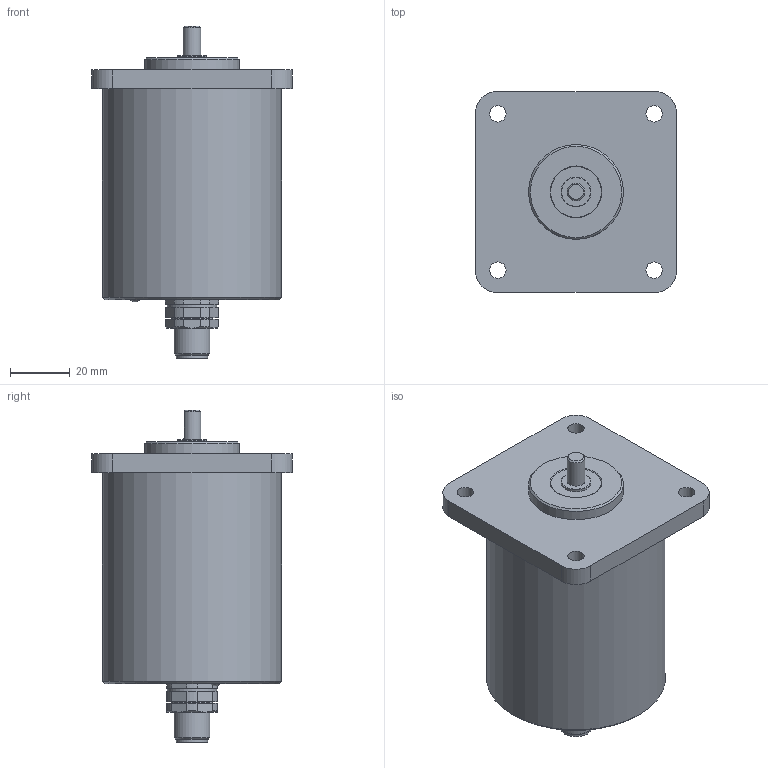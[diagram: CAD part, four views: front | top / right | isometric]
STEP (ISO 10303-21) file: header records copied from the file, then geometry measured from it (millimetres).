
FILE_DESCRIPTION(/* description */ ('Alibre Inc.'),/* implementation_level */ '2;1');
FILE_NAME(/* name */ 'export0',/* time_stamp */ '2016-10-21T14:14:29-04:00',/* author */ (''),/* organization */ (''),/* preprocessor_version */ 'ST-DEVELOPER v14',/* originating_system */ 'Alibre',/* authorisation */ '');
FILE_SCHEMA (('CONFIG_CONTROL_DESIGN'));
Length unit declared in the file: centimetre
Products named in the file (1): ID_1
Bounding box: 67.31 x 67.31 x 111.25 mm (x, y, z)
Volume: 143425 mm3; surface area: 44042.2 mm2
Topology: 3 solids, 44 shells, 284 faces, 481 edges, 316 vertices
Faces by surface type: plane 150, cylinder 105, cone 25, bspline 3, torus 1
Full cylindrical faces by diameter (mm): 1.4 x8, 2.87 x2, 3 x37, 5.5 x4, 6 x1, 8.3 x1, 9.9 x2, 10 x3, 10.5 x1, 11.8 x1, 12 x1, 13.5 x2, 14 x1, 15.2 x1, 16.5 x1, 17 x1, 20 x1, 26 x1, 31.75 x1, 40 x1, 46 x1, 55.8 x1, 60 x1
Entity records: 6036 total; most frequent: CARTESIAN_POINT 1113, DIRECTION 976, ORIENTED_EDGE 746, AXIS2_PLACEMENT_3D 490, EDGE_LOOP 427, FACE_BOUND 427, EDGE_CURVE 373, VERTEX_POINT 304
